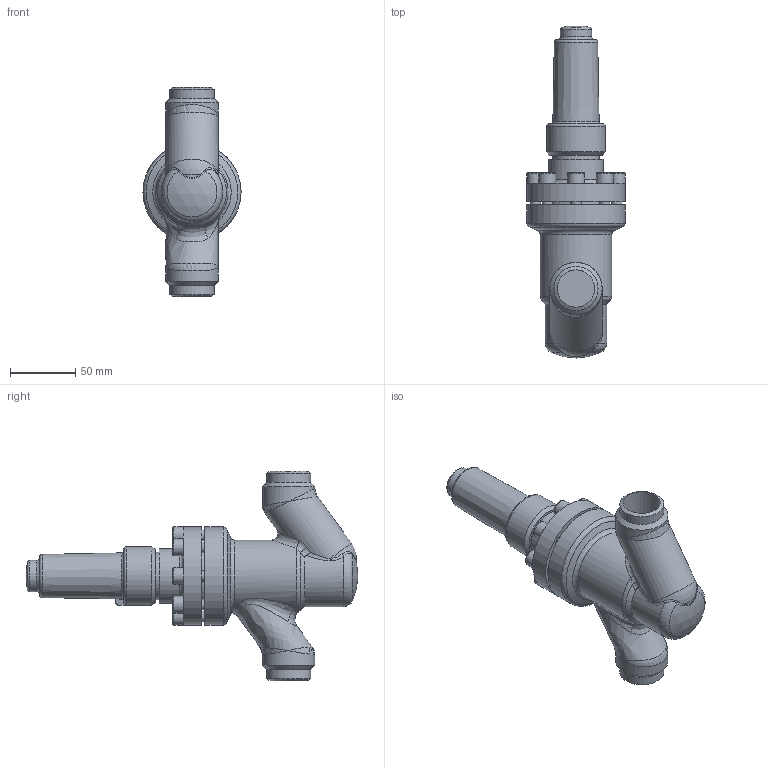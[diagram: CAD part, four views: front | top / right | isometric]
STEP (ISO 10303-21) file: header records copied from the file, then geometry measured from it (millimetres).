
FILE_DESCRIPTION((''),'2;1');
FILE_NAME('Y:\Home\AWP_CAD (2D+3D-Ansicht)\CAD Drawings\3D_STEP\AVR D AE\AVR D AE 26G00-025 PS40.stp','2012-08-27T09:25:01',('Lempe.Ha'),(''),'Autodesk Inventor 2012','Autodesk Inventor 2012','');
FILE_SCHEMA(('AUTOMOTIVE_DESIGN { 1 0 10303 214 1 1 1 1 }'));
Length unit declared in the file: millimetre
Products named in the file (5): 26G00F12A5A30000; 16G00K12.5034004; 26300K13.5141004; DIN 912 - ersetzt durch DIN EN ISO 4762 M8 x 25; 16402.13.3180003
Assembly tree (11 placements, depth 2):
  26G00F12A5A30000
    16G00K12.5034004
    26300K13.5141004
    DIN 912 - ersetzt durch DIN EN ISO 4762 M8 x 25  x8
    16402.13.3180003
Bounding box: 75 x 253.65 x 160 mm (x, y, z)
Volume: 356620.8 mm3; surface area: 115929.2 mm2
Topology: 10 solids, 11 shells, 276 faces, 615 edges, 378 vertices
Faces by surface type: plane 103, cylinder 72, cone 45, torus 31, bspline 22, sphere 3
Full cylindrical faces by diameter (mm): 6.647 x8, 8 x8, 9 x8, 13 x8, 16.7 x1, 21.7 x1, 24 x1, 25.6 x1, 26 x2, 27 x1, 28.5 x2, 30 x1, 32 x1, 33 x1, 33.7 x2, 33.835 x1, 36 x2, 36.5 x1, 37.5 x1, 39.1 x1, 40 x4, 42 x1, 43 x3, 45 x1, 48 x1, 50 x2, 75 x2
Entity records: 5610 total; most frequent: CARTESIAN_POINT 2193, DIRECTION 676, ORIENTED_EDGE 510, AXIS2_PLACEMENT_3D 324, EDGE_LOOP 301, EDGE_CURVE 255, VERTEX_POINT 206, FACE_OUTER_BOUND 171
